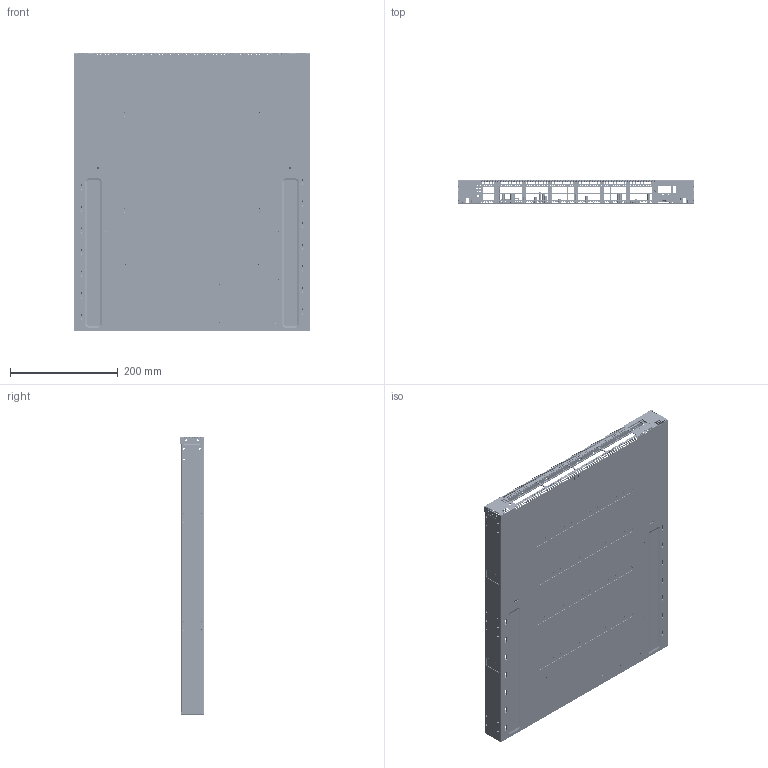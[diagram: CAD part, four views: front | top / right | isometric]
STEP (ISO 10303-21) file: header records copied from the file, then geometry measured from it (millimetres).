
FILE_DESCRIPTION(('Creo Elements/Direct Modeling STEP Export'),'2;1');
FILE_NAME('123100000708A-R1A-20150814.stp','2015-08-14T10:44:14',(''),(''),'PTC Creo Elements/Direct Modeling STEP processor for AP214 (Solid Model)','PTC Creo Elements/Direct Modeling 19.0A 04-Oct-2014 (C) Parametric Technology GmbH','');
FILE_SCHEMA(('AUTOMOTIVE_DESIGN { 1 0 10303 214 1 1 1 1 }'));
Length unit declared in the file: millimetre
Products named in the file (20): 124100004200A-M3X4-D45-T08.7; Rivet..18; Flat-Rivet.6; guide-rail-fan.1.1.6; PEM_SOS_M3-6.2.2; PEM_BSOS_3.5M3-17.6.2; PEM_BSOS_3.5M3-6.64.5.1.1.1.1.1.1.1; BOSS-M3X13.25.; PEM-S-M4-0-ZI; pin-d3x21; PEM_BSOS_3.5M3-13.2.1; BASE; PEM_BSOS_3.5M3-9; CHASSIS-BASE; GASKEY_USB(17.1x9.7x1.5); AIR-DUST-BRK_1(123100000701A); Rivet..16.1.2; PSU-CAGE.; 125500001100A-CABLE-CLAMP-FCE-1; 123100000708A(778A)-CHASSIS-ES7632BT-(1x6fan)-ZZ
Assembly tree (81 placements, depth 3):
  123100000708A(778A)-CHASSIS-ES7632BT-(1x6fan)-ZZ
    125500001100A-CABLE-CLAMP-FCE-1
    PSU-CAGE.  x2
    Flat-Rivet.6  x8
    Rivet..16.1.2
    AIR-DUST-BRK_1(123100000701A)
    Rivet..18  x14
    GASKEY_USB(17.1x9.7x1.5)
    CHASSIS-BASE
      PEM_SOS_M3-6.2.2  x6
      PEM_BSOS_3.5M3-9  x2
      PEM_BSOS_3.5M3-6.64.5.1.1.1.1.1.1.1  x16
      PEM_BSOS_3.5M3-17.6.2  x12
      PEM-S-M4-0-ZI  x2
      BOSS-M3X13.25.  x2
      PEM_BSOS_3.5M3-13.2.1  x2
      BASE
      pin-d3x21
    guide-rail-fan.1.1.6  x7
    124100004200A-M3X4-D45-T08.7
Bounding box: 438.4 x 43.25 x 515 mm (x, y, z)
Volume: 381233.8 mm3; surface area: 780665.6 mm2
Topology: 80 solids, 80 shells, 6288 faces, 18326 edges, 11942 vertices
Faces by surface type: plane 3967, cylinder 1832, cone 276, torus 104, sphere 95, bspline 12, extrusion 2
Entity records: 153830 total; most frequent: CARTESIAN_POINT 33192, ORIENTED_EDGE 26606, DIRECTION 22911, EDGE_CURVE 13303, VECTOR 10299, LINE 10297, VERTEX_POINT 8778, AXIS2_PLACEMENT_3D 6306
